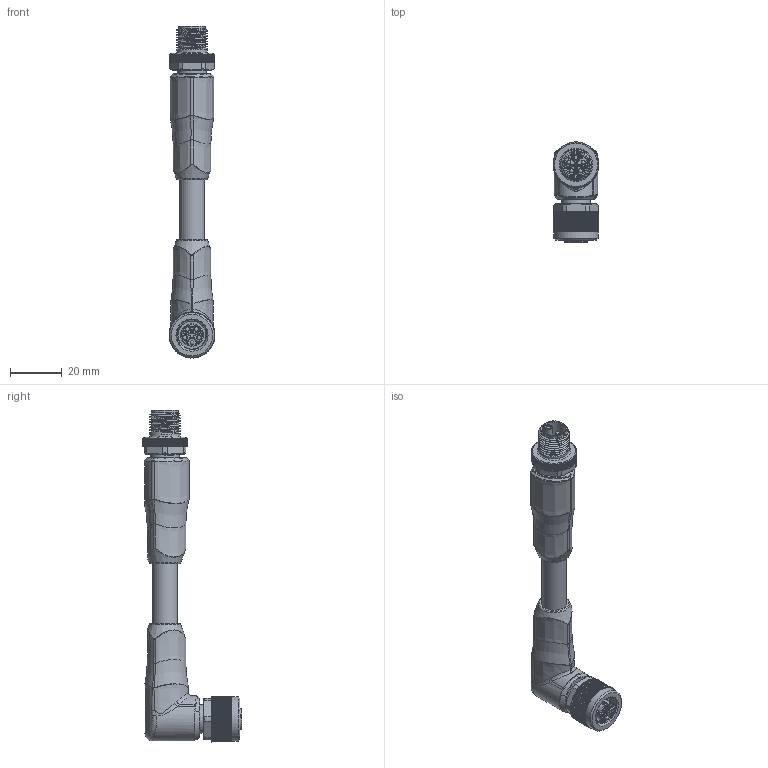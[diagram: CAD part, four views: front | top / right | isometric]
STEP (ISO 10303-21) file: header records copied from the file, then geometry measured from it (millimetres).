
FILE_DESCRIPTION(/* description */ (''),/* implementation_level */ '2;1');
FILE_NAME(/* name */ '77 0679 0674 50505 001_00.stp',/* time_stamp */ '2024-01-23T12:37:59+01:00',/* author */ (''),/* organization */ (''),/* preprocessor_version */ 'ST-DEVELOPER v18.102',/* originating_system */ 'SIEMENS PLM Software NX 2027',/* authorisation */ '');
FILE_SCHEMA (('AUTOMOTIVE_DESIGN { 1 0 10303 214 3 1 1 1 }'));
Products named in the file (1): 00_objects
Bounding box: 17.78 x 38.74 x 128.89 mm (x, y, z)
Volume: 24849.4 mm3; surface area: 9586.1 mm2
Topology: 1 solids, 1 shells, 1423 faces, 3887 edges, 2497 vertices
Faces by surface type: cylinder 623, plane 512, bspline 119, extrusion 57, torus 56, cone 43, sphere 13
Full cylindrical faces by diameter (mm): 1.5 x5, 1.6 x5, 1.63 x4, 8.75 x1, 8.8 x1, 8.9 x1, 9.7 x1, 10.3 x1, 11.2 x2, 12 x8, 13.3 x1, 17.3 x1
Entity records: 57575 total; most frequent: CARTESIAN_POINT 21694, ORIENTED_EDGE 7544, DIRECTION 6423, EDGE_CURVE 3772, VERTEX_POINT 2456, AXIS2_PLACEMENT_3D 2414, VECTOR 1595, LINE 1538
